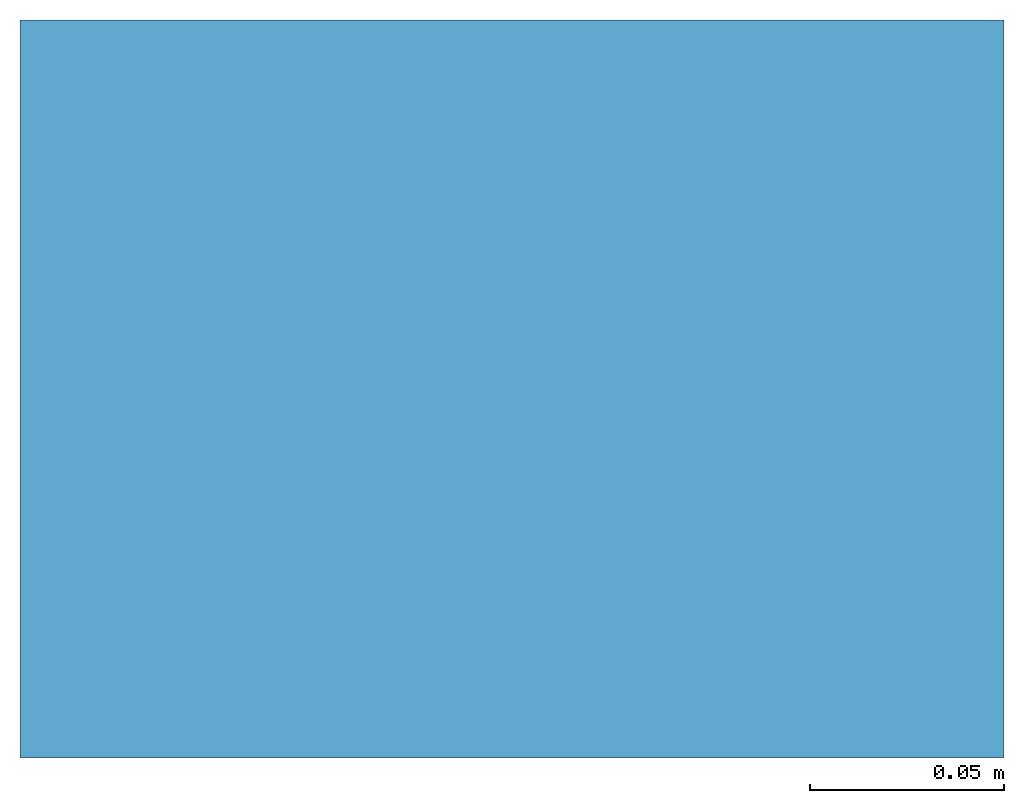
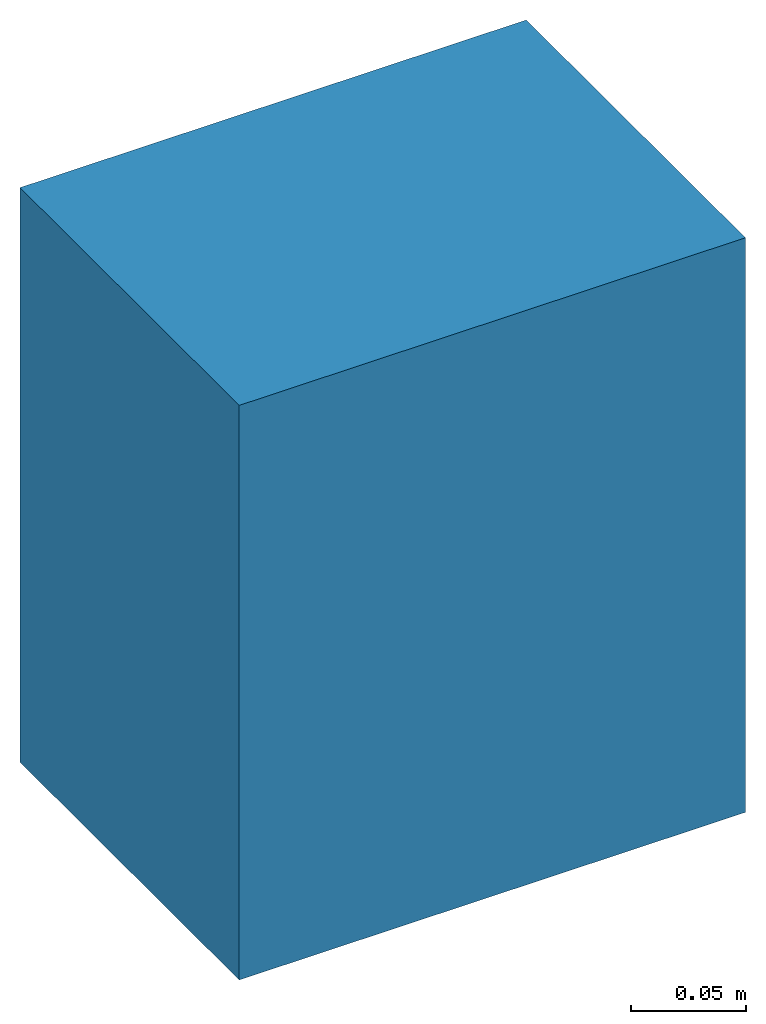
# One storey: 1 slab.
"""IFC2X3 building model written with IfcOpenShell, lengths in feet."""

from ifc_helpers import new_model, entity, si_unit, converted_unit, derived_unit, direction, frame, origin, origin_2d_with_axis, place, context, subcontext, project, spatial, rectangle, extrude, material, layer, layer_set, layer_usage, type_object, element, save


model = new_model("IFC2X3")

# Units and contexts
model_context = context("Model", 3, precision=0.0001, world=origin(), true_north=direction((6.12303176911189e-17, 1.0)))
body_context = subcontext(model_context, "Body", "Model", "MODEL_VIEW")
ifc_project = project(units=[converted_unit("LENGTHUNIT", "FOOT", entity("IfcRatioMeasure", 0.3048), si_unit("LENGTHUNIT", "METRE"), dimensions=[1, 0, 0, 0, 0, 0, 0]), converted_unit("AREAUNIT", "SQUARE FOOT", entity("IfcRatioMeasure", 0.09290304), si_unit("AREAUNIT", "SQUARE_METRE"), dimensions=[2, 0, 0, 0, 0, 0, 0]), converted_unit("VOLUMEUNIT", "CUBIC FOOT", entity("IfcRatioMeasure", 0.028316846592), si_unit("VOLUMEUNIT", "CUBIC_METRE"), dimensions=[3, 0, 0, 0, 0, 0, 0]), converted_unit("PLANEANGLEUNIT", "DEGREE", entity("IfcRatioMeasure", 0.0174532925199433), si_unit("PLANEANGLEUNIT", "RADIAN"), dimensions=[0, 0, 0, 0, 0, 0, 0]), si_unit("MASSUNIT", "GRAM", prefix="KILO"), derived_unit("MASSDENSITYUNIT", [(si_unit("MASSUNIT", "GRAM", prefix="KILO"), 1), (si_unit("LENGTHUNIT", "METRE"), -3)]), si_unit("TIMEUNIT", "SECOND"), si_unit("FREQUENCYUNIT", "HERTZ"), si_unit("THERMODYNAMICTEMPERATUREUNIT", "DEGREE_CELSIUS"), derived_unit("THERMALTRANSMITTANCEUNIT", [(si_unit("MASSUNIT", "GRAM", prefix="KILO"), 1), (si_unit("THERMODYNAMICTEMPERATUREUNIT", "KELVIN"), -1), (si_unit("TIMEUNIT", "SECOND"), -3)]), derived_unit("VOLUMETRICFLOWRATEUNIT", [(si_unit("LENGTHUNIT", "METRE"), 3), (si_unit("TIMEUNIT", "SECOND"), -1)]), si_unit("ELECTRICCURRENTUNIT", "AMPERE"), si_unit("ELECTRICVOLTAGEUNIT", "VOLT"), si_unit("POWERUNIT", "WATT"), si_unit("FORCEUNIT", "NEWTON"), si_unit("ILLUMINANCEUNIT", "LUX"), si_unit("LUMINOUSFLUXUNIT", "LUMEN"), si_unit("LUMINOUSINTENSITYUNIT", "CANDELA"), derived_unit("USERDEFINED", [(si_unit("MASSUNIT", "GRAM", prefix="KILO"), -1), (si_unit("LENGTHUNIT", "METRE"), -2), (si_unit("TIMEUNIT", "SECOND"), 3), (si_unit("LUMINOUSFLUXUNIT", "LUMEN"), 1)]), derived_unit("LINEARVELOCITYUNIT", [(si_unit("LENGTHUNIT", "METRE"), 1), (si_unit("TIMEUNIT", "SECOND"), -1)]), si_unit("PRESSUREUNIT", "PASCAL"), derived_unit("USERDEFINED", [(si_unit("LENGTHUNIT", "METRE"), -2), (si_unit("MASSUNIT", "GRAM", prefix="KILO"), 1), (si_unit("TIMEUNIT", "SECOND"), -2)])], contexts=[model_context])

# Site, building, storey
site_placement = place(None, origin())
site = spatial("IfcSite", under=ifc_project, at=site_placement, Name="Default", CompositionType="ELEMENT")
building_placement = place(site_placement, origin())
building = spatial("IfcBuilding", under=site, at=building_placement, CompositionType="ELEMENT")
storey_placement = place(building_placement, origin())
storey = spatial("IfcBuildingStorey", under=building, at=storey_placement, Name="Level 1", CompositionType="ELEMENT", Elevation=0.0)

# Slab
ifc_material = material(Name="Default Floor")
ifc_layer = layer(ifc_material, 1.0)
ifc_layer_set = layer_set([ifc_layer], Name="Floor:Generic - 12\"")
ifc_layer_usage = layer_usage(ifc_layer_set, "AXIS3", "POSITIVE", 0.0)
slab_type = type_object("IfcSlabType", Name="Floor:Generic - 12\"", PredefinedType="FLOOR", material=ifc_layer_set)
slab_placement = place(storey_placement, origin())
element("IfcSlab", 1, at=slab_placement, inside=storey, type_object=slab_type, material=ifc_layer_usage, Name="Floor:Generic - 12\"", ObjectType="Floor:Generic - 12\"", PredefinedType="FLOOR", context=body_context, shape_type="SweptSolid", body=[
    extrude(rectangle(XDim=0.625, YDim=0.833333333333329, at=origin_2d_with_axis()), frame((-10.725742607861, 9.00823119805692, 0.0), z_axis=(0.0, 0.0, -1.0), x_axis=(0.0, 1.0, 0.0)), (0.0, 0.0, 1.0), 1.0),
])

save(model, "model.ifc")
